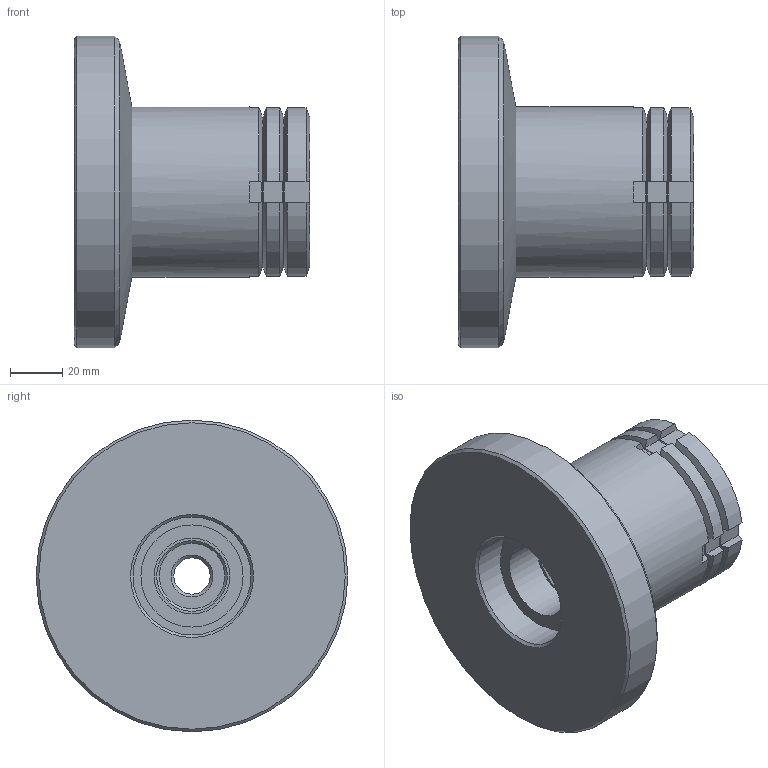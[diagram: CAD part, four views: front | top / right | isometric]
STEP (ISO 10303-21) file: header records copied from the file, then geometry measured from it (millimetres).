
FILE_DESCRIPTION( ( 'STEP AP203' ), '1' );
FILE_NAME( 'C:/Temp/Ganter_Step_05_03_2020/data/3_2/gn360/gn360_st/Levelling set GN 360-119-M16-112-B-ST (0-0).stp', '2020-03-13T05:41:57', ( 'License CC BY-ND 4.0' ), ( 'CADENAS' ), ' ', 'PARTsolutions', ' ' );
FILE_SCHEMA( ( 'CONFIG_CONTROL_DESIGN' ) );
Length unit declared in the file: millimetre
Products named in the file (5): Levelling set GN 360-119-M16-112-B-ST (0-0); _Levelling set GN 360-119-M16-112-B-ST (0-0)-1; _Levelling set GN 360-119-M16-112-B-ST (0-0)-2; _Levelling set GN 360-119-M16-112-B-ST (0-0)-4; _Levelling set GN 360-119-M16-112-B-ST (0-0)-3
Assembly tree (4 placements, depth 2):
  Levelling set GN 360-119-M16-112-B-ST (0-0)
    _Levelling set GN 360-119-M16-112-B-ST (0-0)-1
    _Levelling set GN 360-119-M16-112-B-ST (0-0)-2
    _Levelling set GN 360-119-M16-112-B-ST (0-0)-4
    _Levelling set GN 360-119-M16-112-B-ST (0-0)-3
Bounding box: 90 x 119 x 119 mm (x, y, z)
Volume: 391671.7 mm3; surface area: 79086 mm2
Topology: 4 solids, 4 shells, 96 faces, 232 edges, 149 vertices
Faces by surface type: plane 53, cylinder 22, cone 18, sphere 2, torus 1
Full cylindrical faces by diameter (mm): 13.835 x1, 25 x1, 29 x1, 32 x1, 38 x1, 39 x1, 43 x1, 43.376 x2, 45 x2, 45.5 x1, 65 x1, 119 x1
Entity records: 2944 total; most frequent: CARTESIAN_POINT 771, DIRECTION 400, ORIENTED_EDGE 378, EDGE_CURVE 189, AXIS2_PLACEMENT_3D 170, EDGE_LOOP 144, VERTEX_POINT 141, FACE_OUTER_BOUND 113
